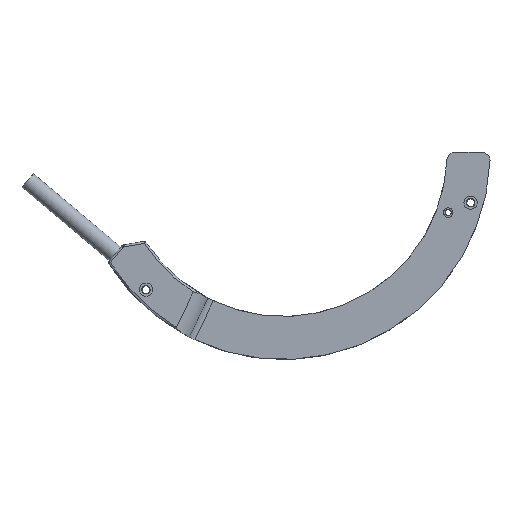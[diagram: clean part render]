
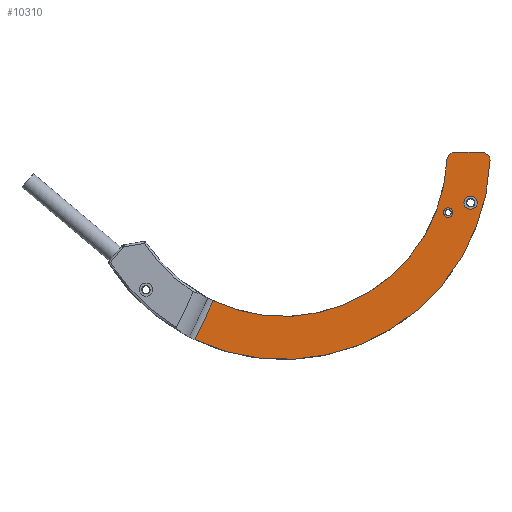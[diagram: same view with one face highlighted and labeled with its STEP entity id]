
A CAD part, top view. The second image highlights one B-rep face of the part: STEP entity #10310.
In plain terms, the highlighted planar face has unit normal (0, 0, 1).
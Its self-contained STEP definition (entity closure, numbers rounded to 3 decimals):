
#52=CIRCLE('',#11137,1.75);
#75=CIRCLE('',#11162,54.4);
#78=CIRCLE('',#11166,43.1);
#102=CIRCLE('',#11210,1.25);
#103=CIRCLE('',#11211,2.);
#104=CIRCLE('',#11212,2.);
#353=ORIENTED_EDGE('',*,*,#2851,.T.);
#354=ORIENTED_EDGE('',*,*,#2751,.F.);
#355=ORIENTED_EDGE('',*,*,#2852,.T.);
#356=ORIENTED_EDGE('',*,*,#2793,.F.);
#357=ORIENTED_EDGE('',*,*,#2853,.T.);
#358=ORIENTED_EDGE('',*,*,#2785,.F.);
#359=ORIENTED_EDGE('',*,*,#2854,.T.);
#360=ORIENTED_EDGE('',*,*,#2754,.T.);
#2751=EDGE_CURVE('',#4017,#4018,#4875,.T.);
#2754=EDGE_CURVE('',#4020,#4020,#52,.F.);
#2785=EDGE_CURVE('',#4049,#4050,#75,.F.);
#2793=EDGE_CURVE('',#4057,#4058,#78,.T.);
#2851=EDGE_CURVE('',#4098,#4098,#102,.T.);
#2852=EDGE_CURVE('',#4017,#4058,#103,.T.);
#2853=EDGE_CURVE('',#4057,#4050,#4919,.T.);
#2854=EDGE_CURVE('',#4049,#4018,#104,.T.);
#4017=VERTEX_POINT('',#14550);
#4018=VERTEX_POINT('',#14552);
#4020=VERTEX_POINT('',#14558);
#4049=VERTEX_POINT('',#14619);
#4050=VERTEX_POINT('',#14621);
#4057=VERTEX_POINT('',#14648);
#4058=VERTEX_POINT('',#14650);
#4098=VERTEX_POINT('',#14771);
#4875=LINE('',#14551,#6015);
#4919=LINE('',#14773,#6059);
#6015=VECTOR('',#11896,1000.);
#6059=VECTOR('',#12094,1000.);
#7189=EDGE_LOOP('',(#353));
#7190=EDGE_LOOP('',(#354,#355,#356,#357,#358,#359));
#7191=EDGE_LOOP('',(#360));
#7883=FACE_BOUND('',#7189,.T.);
#7884=FACE_BOUND('',#7190,.T.);
#7885=FACE_BOUND('',#7191,.T.);
#8554=PLANE('',#11209);
#10310=ADVANCED_FACE('',(#7883,#7884,#7885),#8554,.T.);
#11137=AXIS2_PLACEMENT_3D('',#14557,#11902,#11903);
#11162=AXIS2_PLACEMENT_3D('',#14620,#11960,#11961);
#11166=AXIS2_PLACEMENT_3D('',#14649,#11969,#11970);
#11209=AXIS2_PLACEMENT_3D('',#14769,#12088,#12089);
#11210=AXIS2_PLACEMENT_3D('',#14770,#12090,#12091);
#11211=AXIS2_PLACEMENT_3D('',#14772,#12092,#12093);
#11212=AXIS2_PLACEMENT_3D('',#14774,#12095,#12096);
#11896=DIRECTION('',(1.,0.,0.));
#11902=DIRECTION('',(0.,0.,1.));
#11903=DIRECTION('',(1.,0.,0.));
#11960=DIRECTION('',(0.,0.,1.));
#11961=DIRECTION('',(1.,0.,0.));
#11969=DIRECTION('',(0.,0.,1.));
#11970=DIRECTION('',(1.,0.,0.));
#12088=DIRECTION('',(0.,0.,1.));
#12089=DIRECTION('',(1.,0.,0.));
#12090=DIRECTION('',(0.,0.,-1.));
#12091=DIRECTION('',(0.,-1.,0.));
#12092=DIRECTION('',(0.,0.,1.));
#12093=DIRECTION('',(1.,0.,0.));
#12094=DIRECTION('',(-0.423,-0.906,0.));
#12095=DIRECTION('',(0.,0.,1.));
#12096=DIRECTION('',(1.,0.,0.));
#14550=CARTESIAN_POINT('',(45.056,0.,3.));
#14551=CARTESIAN_POINT('',(43.1,0.,3.));
#14552=CARTESIAN_POINT('',(52.362,0.,3.));
#14557=CARTESIAN_POINT('',(49.262,-13.2,3.));
#14558=CARTESIAN_POINT('',(51.012,-13.2,3.));
#14619=CARTESIAN_POINT('',(54.36,-2.076,3.));
#14620=CARTESIAN_POINT('',(0.,0.,3.));
#14621=CARTESIAN_POINT('',(-23.166,-49.221,3.));
#14648=CARTESIAN_POINT('',(-18.389,-38.98,3.));
#14649=CARTESIAN_POINT('',(0.,0.,3.));
#14650=CARTESIAN_POINT('',(43.058,-1.911,3.));
#14769=CARTESIAN_POINT('',(0.,0.,3.));
#14770=CARTESIAN_POINT('',(43.367,-15.784,3.));
#14771=CARTESIAN_POINT('',(43.367,-17.034,3.));
#14772=CARTESIAN_POINT('',(45.056,-2.,3.));
#14773=CARTESIAN_POINT('',(-23.159,-49.206,3.));
#14774=CARTESIAN_POINT('',(52.362,-2.,3.));
